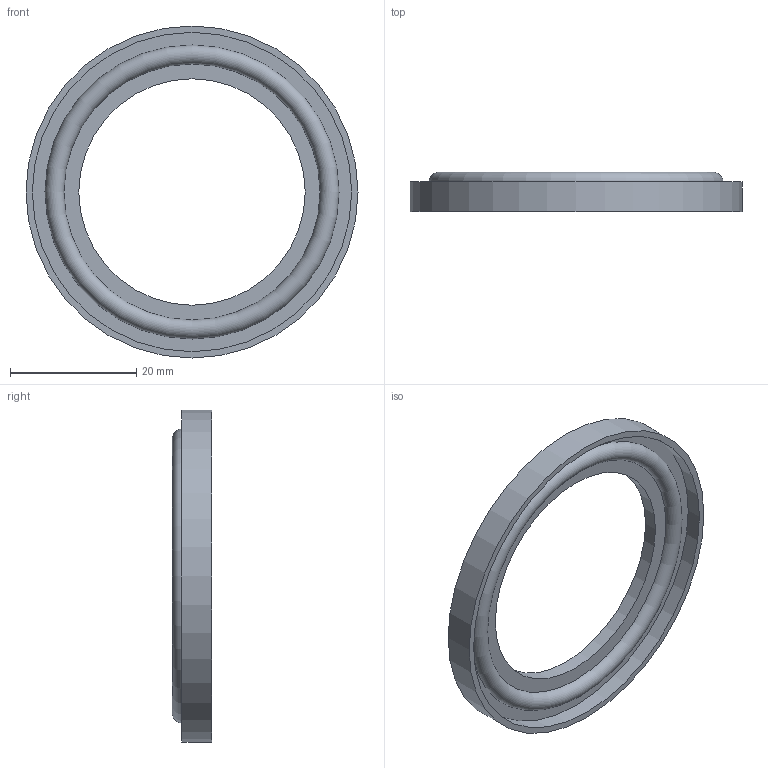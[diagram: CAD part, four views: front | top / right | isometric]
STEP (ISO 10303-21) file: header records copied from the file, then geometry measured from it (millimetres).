
FILE_DESCRIPTION(/* description */ ('Unknown'),/* implementation_level */ '2;1');
FILE_NAME(/* name */ 'ZPX3-7232',/* time_stamp */ '2020-09-30T10:30:41+02:00',/* author */ ('Unknown'),/* organization */ ('Unknown'),/* preprocessor_version */ 'ST-DEVELOPER v16.7',/* originating_system */ 'DEX',/* authorisation */ $);
FILE_SCHEMA (('AUTOMOTIVE_DESIGN {1 0 10303 214 3 1 1}'));
Length unit declared in the file: millimetre
Products named in the file (1): ZPX3-7232
Bounding box: 52.5 x 6.2 x 52.5 mm (x, y, z)
Volume: 3921 mm3; surface area: 4203.5 mm2
Topology: 1 solids, 1 shells, 10 faces, 15 edges, 10 vertices
Faces by surface type: plane 5, cylinder 3, torus 2
Full cylindrical faces by diameter (mm): 35.8 x1, 50.5 x1, 52.5 x1
Entity records: 238 total; most frequent: DIRECTION 42, CARTESIAN_POINT 31, AXIS2_PLACEMENT_3D 21, ORIENTED_EDGE 20, EDGE_LOOP 20, FACE_BOUND 20, EDGE_CURVE 10, VERTEX_POINT 10
